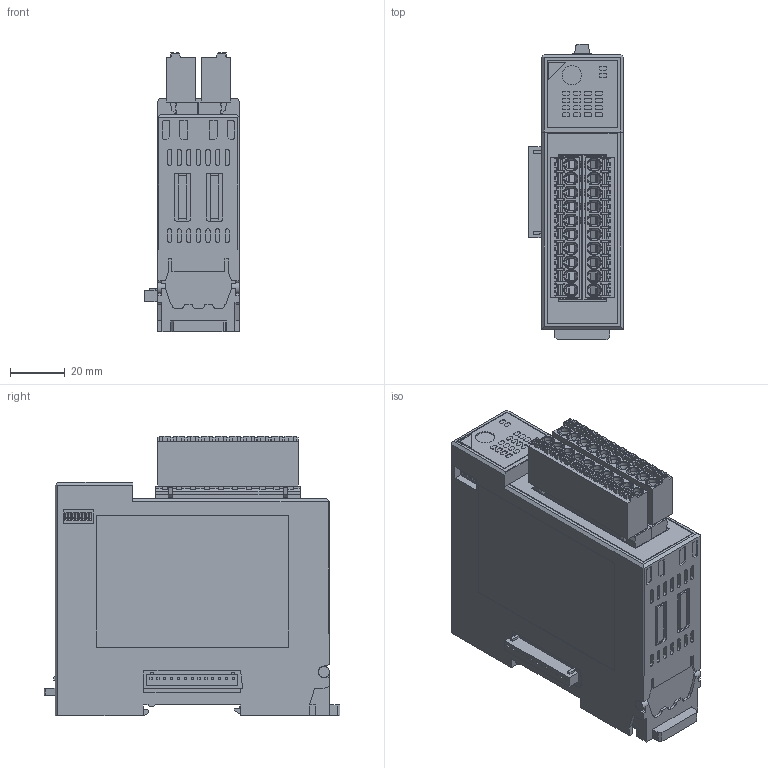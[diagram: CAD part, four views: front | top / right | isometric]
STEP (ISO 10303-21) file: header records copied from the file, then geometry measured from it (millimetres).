
FILE_DESCRIPTION (( 'STEP AP203' ), '1' );
FILE_NAME ('AS_QPM1-PI16□0C_260616.STEP', '2026-06-16T07:14:19', ( '' ), ( '' ), 'SwSTEP 2.0', 'SolidWorks 2025', '' );
FILE_SCHEMA (( 'CONFIG_CONTROL_DESIGN' ));
Length unit declared in the file: millimetre
Products named in the file (3): AS_QPM1-PI16□0C_260616; QPM1-PI16□□C_260616_0C; dinkle_2ess-10p
Assembly tree (3 placements, depth 2):
  AS_QPM1-PI16□0C_260616
    QPM1-PI16□□C_260616_0C
    dinkle_2ess-10p  x2
Bounding box: 34.5 x 107.85 x 102 mm (x, y, z)
Volume: 249972.6 mm3; surface area: 48953.9 mm2
Topology: 3 solids, 3 shells, 4065 faces, 10274 edges, 6434 vertices
Faces by surface type: plane 2214, cylinder 1144, bspline 400, torus 176, cone 131
Entity records: 98952 total; most frequent: CARTESIAN_POINT 29704, ORIENTED_EDGE 14752, DIRECTION 13676, EDGE_CURVE 7376, LINE 5156, VECTOR 5156, VERTEX_POINT 4708, AXIS2_PLACEMENT_3D 4260
